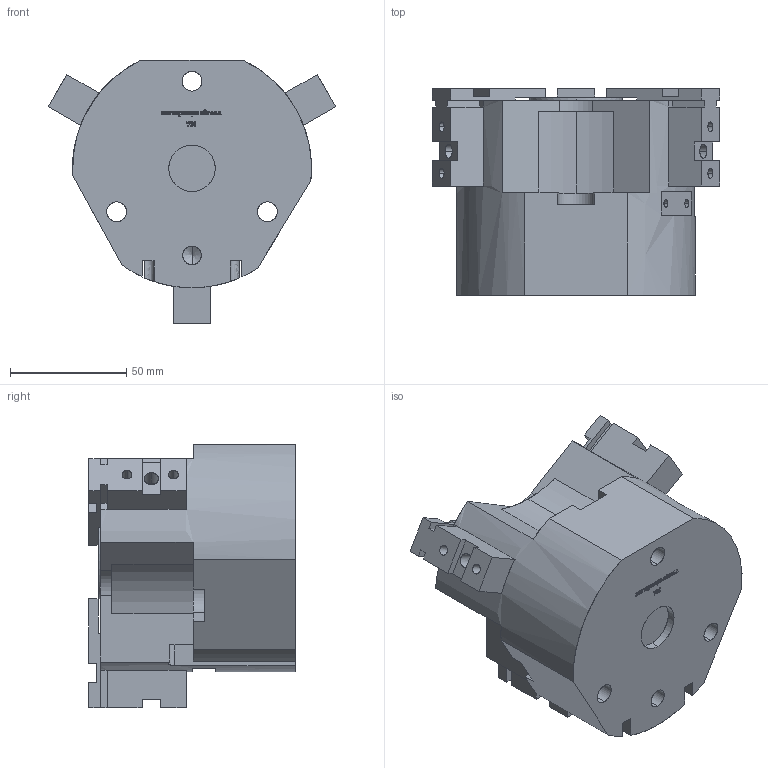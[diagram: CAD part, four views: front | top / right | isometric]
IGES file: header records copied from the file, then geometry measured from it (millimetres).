
Start section: SolidWorks IGES file using analytic representation for surfaces
Global section: file name: C:\Documents and Settings\SGA\Bureau\ROMAIN\OPE 105-3\OPE 105-3 ouvert.IGS; native system: SolidWorks 2010; preprocessor: SolidWorks 2010; author: SGA; date: 110928.095421; units: millimetre
Bounding box: 123.79 x 89 x 113.46 mm (x, y, z)
Surface area: 85748.2 mm2 (no closed solid volume)
Topology: 0 solids, 0 shells, 923 faces, 10512 edges, 10466 vertices
Faces by surface type: bspline 801, revolution 122
